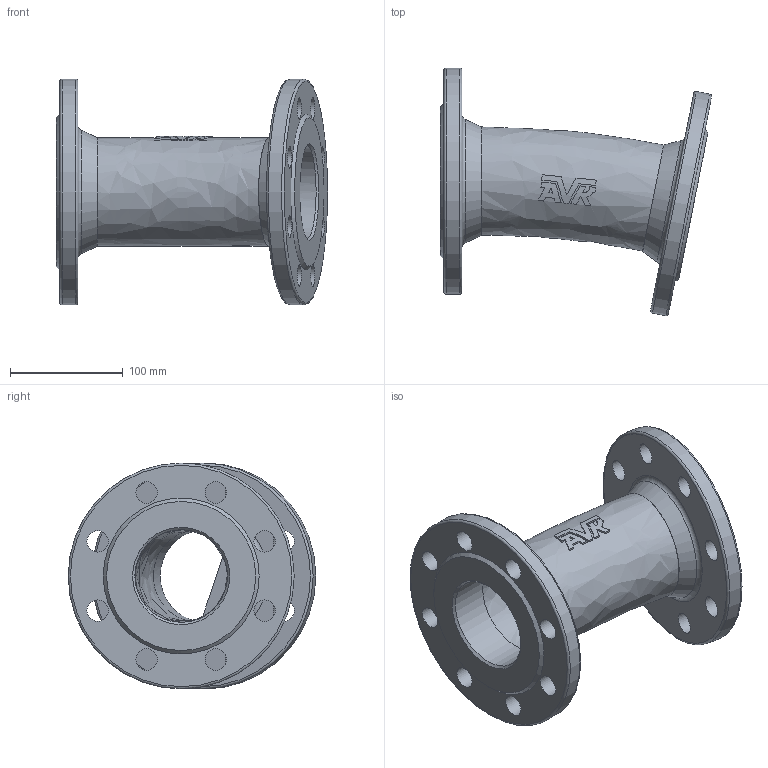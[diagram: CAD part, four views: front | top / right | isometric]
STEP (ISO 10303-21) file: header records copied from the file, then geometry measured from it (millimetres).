
FILE_DESCRIPTION (( 'STEP AP203' ), '1' );
FILE_NAME ('O_712_0110_DN80_1X_REV01.step', '2024-08-15T07:34:04', ( '' ), ( '' ), 'SwSTEP 2.0', 'SolidWorks 2022', '' );
FILE_SCHEMA (( 'CONFIG_CONTROL_DESIGN' ));
Length unit declared in the file: millimetre
Products named in the file (1): O_712_0110_DN80_1X_REV01
Bounding box: 240.04 x 219.19 x 200 mm (x, y, z)
Volume: 1225283.4 mm3; surface area: 236865.2 mm2
Topology: 1 solids, 1 shells, 119 faces, 338 edges, 229 vertices
Faces by surface type: cylinder 59, plane 42, bspline 6, cone 6, torus 6
Full cylindrical faces by diameter (mm): 19 x16, 82 x2, 200 x2
Entity records: 4230 total; most frequent: CARTESIAN_POINT 1541, ORIENTED_EDGE 562, DIRECTION 412, EDGE_CURVE 281, VERTEX_POINT 206, EDGE_LOOP 195, AXIS2_PLACEMENT_3D 169, B_SPLINE_CURVE_WITH_KNOTS 150
